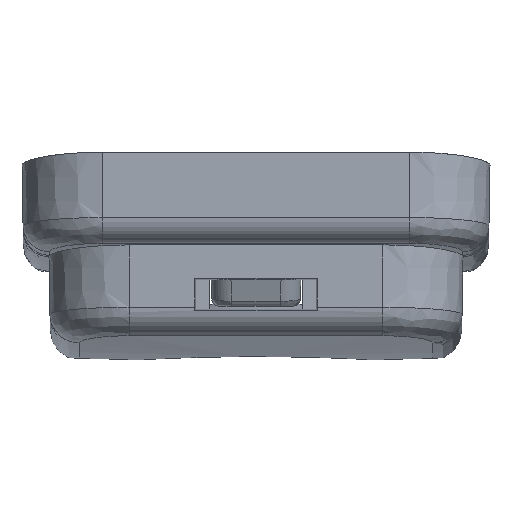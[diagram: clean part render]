
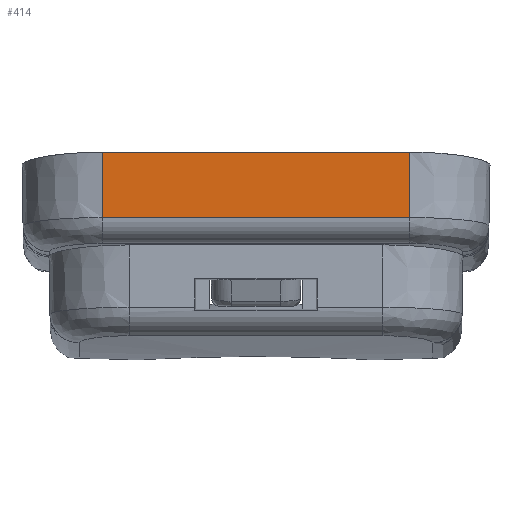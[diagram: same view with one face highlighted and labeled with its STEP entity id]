
A CAD part, front view. The second image highlights one B-rep face of the part: STEP entity #414.
In plain terms, the highlighted planar face has unit normal (0, -1, -0.018).
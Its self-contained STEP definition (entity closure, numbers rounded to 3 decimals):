
#270=PLANE('',#4032);
#414=ADVANCED_FACE('',(#697),#270,.F.);
#697=FACE_OUTER_BOUND('',#917,.T.);
#917=EDGE_LOOP('',(#2080,#2081,#2082,#2083));
#1180=LINE('',#6465,#1439);
#1181=LINE('',#6481,#1440);
#1182=LINE('',#6484,#1441);
#1183=LINE('',#6485,#1442);
#1439=VECTOR('',#4613,1.);
#1440=VECTOR('',#4616,1.);
#1441=VECTOR('',#4617,1.);
#1442=VECTOR('',#4618,1.);
#2080=ORIENTED_EDGE('',*,*,#3417,.T.);
#2081=ORIENTED_EDGE('',*,*,#3418,.T.);
#2082=ORIENTED_EDGE('',*,*,#3414,.T.);
#2083=ORIENTED_EDGE('',*,*,#3419,.T.);
#2984=VERTEX_POINT('',#6466);
#2985=VERTEX_POINT('',#6467);
#2986=VERTEX_POINT('',#6482);
#2987=VERTEX_POINT('',#6483);
#3414=EDGE_CURVE('',#2984,#2985,#1180,.T.);
#3417=EDGE_CURVE('',#2986,#2987,#1181,.T.);
#3418=EDGE_CURVE('',#2987,#2984,#1182,.T.);
#3419=EDGE_CURVE('',#2985,#2986,#1183,.T.);
#4032=AXIS2_PLACEMENT_3D('',#6486,#4619,#4620);
#4613=DIRECTION('',(0.,-0.017,1.));
#4616=DIRECTION('',(0.,0.017,-1.));
#4617=DIRECTION('',(1.,0.,0.));
#4618=DIRECTION('',(-1.,0.,0.));
#4619=DIRECTION('',(0.,1.,0.017));
#4620=DIRECTION('',(0.,-0.017,1.));
#6465=CARTESIAN_POINT('',(11.5,-27.5,0.2));
#6466=CARTESIAN_POINT('',(11.5,-27.456,-2.344));
#6467=CARTESIAN_POINT('',(11.5,-27.541,2.55));
#6481=CARTESIAN_POINT('',(-11.5,-27.5,0.2));
#6482=CARTESIAN_POINT('',(-11.5,-27.541,2.55));
#6483=CARTESIAN_POINT('',(-11.5,-27.456,-2.344));
#6484=CARTESIAN_POINT('',(11.5,-27.456,-2.344));
#6485=CARTESIAN_POINT('',(-25.,-27.541,2.55));
#6486=CARTESIAN_POINT('',(-15.,-27.5,0.2));
